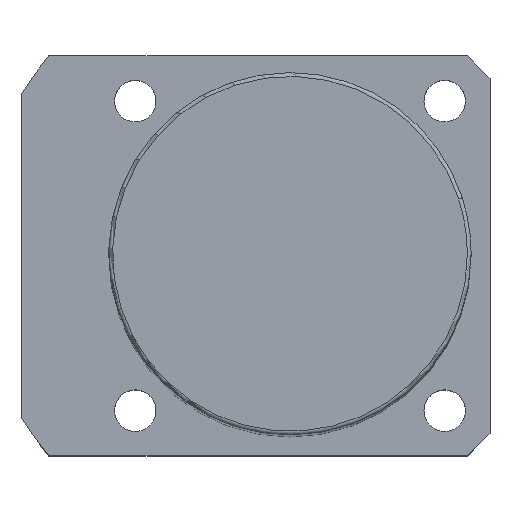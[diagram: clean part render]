
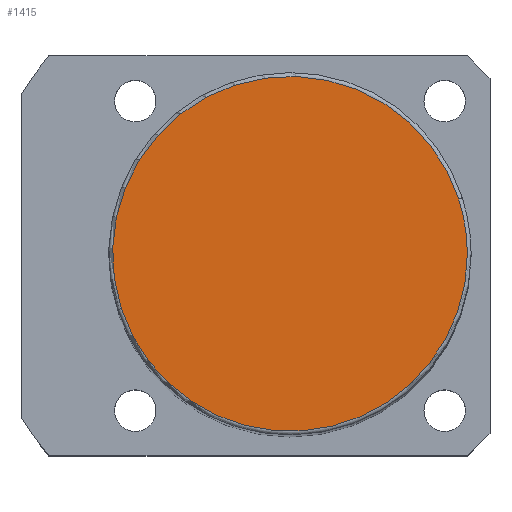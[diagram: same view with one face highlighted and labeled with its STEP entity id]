
A CAD part, top view. The second image highlights one B-rep face of the part: STEP entity #1415.
In plain terms, the highlighted planar face has unit normal (0, 0, 1).
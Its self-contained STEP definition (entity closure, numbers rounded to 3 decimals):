
#1348=CARTESIAN_POINT('',(22.35,7.262,169.0));
#1349=VERTEX_POINT('',#1348);
#1367=CARTESIAN_POINT('',(-22.35,-7.262,169.0));
#1368=VERTEX_POINT('',#1367);
#1376=CARTESIAN_POINT('',(0.0,0.0,169.0));
#1377=DIRECTION('',(0.0,0.0,1.0));
#1378=DIRECTION('',(1.0,0.0,0.0));
#1379=AXIS2_PLACEMENT_3D('',#1376,#1377,#1378);
#1380=CIRCLE('',#1379,23.5);
#1381=EDGE_CURVE('no 1883',#1349,#1368,#1380,.T.);
#1391=CARTESIAN_POINT('',(23.5,0.0,169.0));
#1392=VERTEX_POINT('',#1391);
#1393=CARTESIAN_POINT('',(0.0,0.0,169.0));
#1394=DIRECTION('',(0.0,0.0,1.0));
#1395=DIRECTION('',(1.0,0.0,0.0));
#1396=AXIS2_PLACEMENT_3D('',#1393,#1394,#1395);
#1397=CIRCLE('',#1396,23.5);
#1398=EDGE_CURVE('no 1892',#1392,#1349,#1397,.T.);
#1399=ORIENTED_EDGE('',*,*,#1398,.T.);
#1400=ORIENTED_EDGE('',*,*,#1381,.T.);
#1401=CARTESIAN_POINT('',(0.0,0.0,169.0));
#1402=DIRECTION('',(0.0,0.0,1.0));
#1403=DIRECTION('',(1.0,0.0,0.0));
#1404=AXIS2_PLACEMENT_3D('',#1401,#1402,#1403);
#1405=CIRCLE('',#1404,23.5);
#1406=EDGE_CURVE('no 1898',#1368,#1392,#1405,.T.);
#1407=ORIENTED_EDGE('',*,*,#1406,.T.);
#1408=EDGE_LOOP('',(#1399,#1400,#1407));
#1409=FACE_OUTER_BOUND('',#1408,.T.);
#1410=CARTESIAN_POINT('',(0.0,0.0,169.0));
#1411=DIRECTION('',(0.0,0.0,1.0));
#1412=DIRECTION('',(1.0,0.0,0.0));
#1413=AXIS2_PLACEMENT_3D('',#1410,#1411,#1412);
#1414=PLANE('',#1413);
#1415=ADVANCED_FACE('no 1885',(#1409),#1414,.T.);
